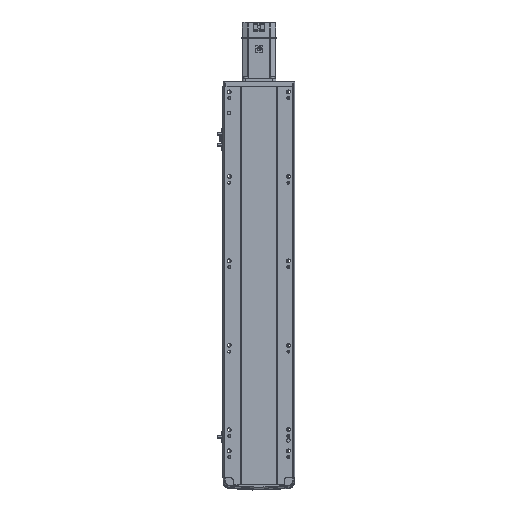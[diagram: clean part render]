
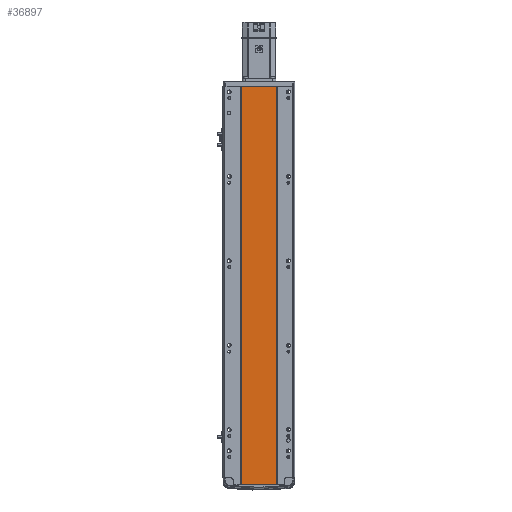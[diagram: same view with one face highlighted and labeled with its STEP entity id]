
A CAD part, front view. The second image highlights one B-rep face of the part: STEP entity #36897.
In plain terms, the highlighted planar face has unit normal (0, -1, 0).
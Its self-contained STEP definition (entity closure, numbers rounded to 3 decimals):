
#909 = FACE_OUTER_BOUND ( 'NONE', #26332, .T. ) ;
#1880 = VECTOR ( 'NONE', #25221, 1000. ) ;
#2501 = ORIENTED_EDGE ( 'NONE', *, *, #39233, .F. ) ;
#5569 = AXIS2_PLACEMENT_3D ( 'NONE', #47974, #15400, #44023 ) ;
#5936 = CARTESIAN_POINT ( 'NONE',  ( -41.791, 1., 943.5 ) ) ;
#6615 = CARTESIAN_POINT ( 'NONE',  ( 41.793, 0.998, 943.5 ) ) ;
#10712 = ORIENTED_EDGE ( 'NONE', *, *, #39685, .T. ) ;
#11145 = ORIENTED_EDGE ( 'NONE', *, *, #46617, .T. ) ;
#14958 = ORIENTED_EDGE ( 'NONE', *, *, #34571, .F. ) ;
#15400 = DIRECTION ( 'NONE',  ( 0., 1., 0. ) ) ;
#19062 = DIRECTION ( 'NONE',  ( 1., 0., 0. ) ) ;
#19185 = CARTESIAN_POINT ( 'NONE',  ( 0., 0.999, 943.5 ) ) ;
#25221 = DIRECTION ( 'NONE',  ( 0., 0., -1. ) ) ;
#25496 = LINE ( 'NONE', #43592, #42127 ) ;
#26257 = LINE ( 'NONE', #33664, #1880 ) ;
#26332 = EDGE_LOOP ( 'NONE', ( #11145, #2501, #14958, #10712 ) ) ;
#27986 = DIRECTION ( 'NONE',  ( 1., 0., 0. ) ) ;
#28508 = LINE ( 'NONE', #19185, #52087 ) ;
#31560 = VERTEX_POINT ( 'NONE', #5936 ) ;
#33664 = CARTESIAN_POINT ( 'NONE',  ( -41.791, 1., 943.5 ) ) ;
#34571 = EDGE_CURVE ( 'NONE', #31560, #46513, #28508, .T. ) ;
#36897 = ADVANCED_FACE ( 'NONE', ( #909 ), #48136, .F. ) ;
#38140 = VERTEX_POINT ( 'NONE', #50852 ) ;
#38417 = CARTESIAN_POINT ( 'NONE',  ( 41.793, 0.998, 943.5 ) ) ;
#39233 = EDGE_CURVE ( 'NONE', #46513, #38140, #43608, .T. ) ;
#39685 = EDGE_CURVE ( 'NONE', #31560, #41204, #26257, .T. ) ;
#41204 = VERTEX_POINT ( 'NONE', #43718 ) ;
#41647 = VECTOR ( 'NONE', #51033, 1000. ) ;
#42127 = VECTOR ( 'NONE', #19062, 1000. ) ;
#43592 = CARTESIAN_POINT ( 'NONE',  ( 0., 0.999, 0. ) ) ;
#43608 = LINE ( 'NONE', #6615, #41647 ) ;
#43718 = CARTESIAN_POINT ( 'NONE',  ( -41.791, 1., 0. ) ) ;
#44023 = DIRECTION ( 'NONE',  ( -1., 0., 0. ) ) ;
#46513 = VERTEX_POINT ( 'NONE', #38417 ) ;
#46617 = EDGE_CURVE ( 'NONE', #41204, #38140, #25496, .T. ) ;
#47974 = CARTESIAN_POINT ( 'NONE',  ( 0., 0.999, 943.5 ) ) ;
#48136 = PLANE ( 'NONE',  #5569 ) ;
#50852 = CARTESIAN_POINT ( 'NONE',  ( 41.793, 0.998, 0. ) ) ;
#51033 = DIRECTION ( 'NONE',  ( 0., 0., -1. ) ) ;
#52087 = VECTOR ( 'NONE', #27986, 1000. ) ;
